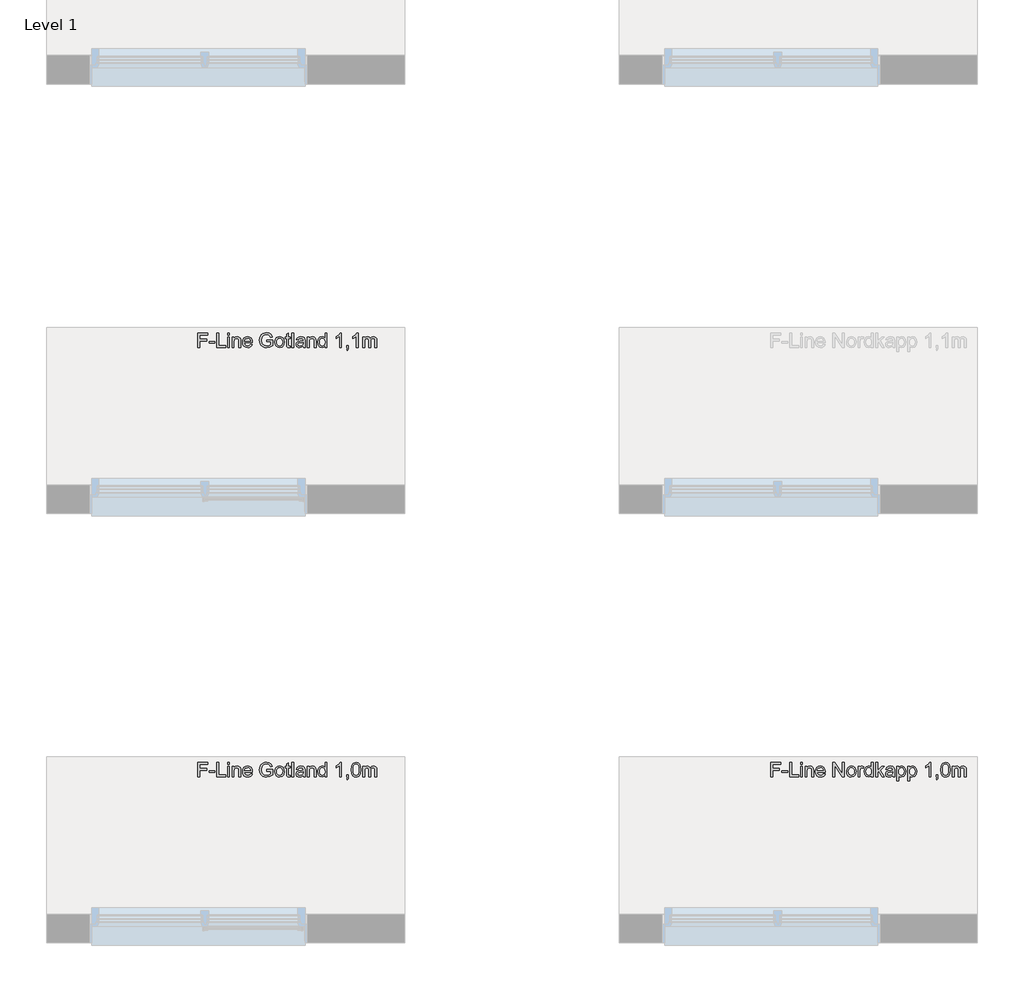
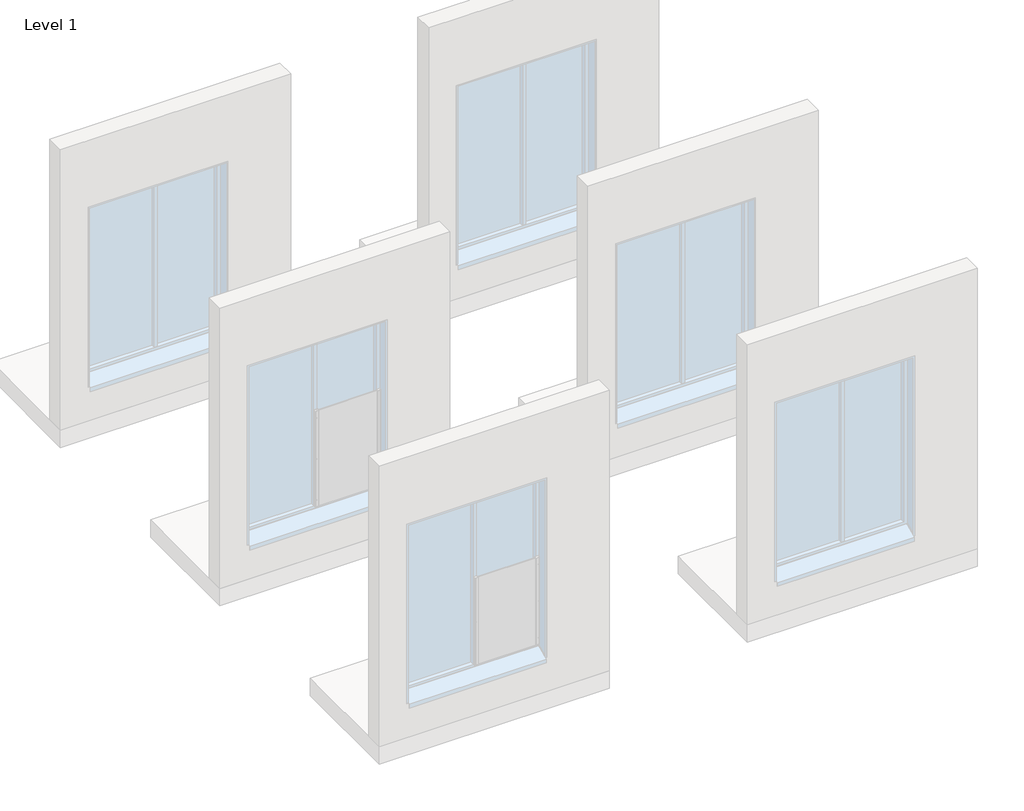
# One storey, part 47 of 66: 3 proxies.
"""IFC4 building model written with IfcOpenShell, lengths in millimetres."""

from ifc_helpers import new_model, si_unit, origin, origin_with_axes, place, context, project, spatial, polyline, outline, extrude, element, save

model = new_model("IFC4")

# Units and contexts
model_context = context("Model", 3, world=origin())
ifc_project = project(units=[si_unit("LENGTHUNIT", "METRE", prefix="MILLI")], contexts=[model_context])

# Site, building, storey
site = spatial("IfcSite", under=ifc_project)
building = spatial("IfcBuilding", under=site)
storey = spatial("IfcBuildingStorey", under=building, Name="Level 1", Elevation=0.0)

# Proxies
placement = place(None, origin())
element("IfcBuildingElementProxy", 1, Name="100mm Arial", ObjectType="100mm Arial", at=placement, inside=storey, context=model_context, shape_type="SweptSolid", body=[
    extrude(outline(polyline([(-8437.4350963, -3809.7113559), (-8437.4350963, -3709.2550458), (-8369.9410129, -3709.2550458), (-8369.9410129, -3721.8120845), (-8424.8780575, -3721.8120845), (-8424.8780575, -3751.6350516), (-8377.7891622, -3751.6350516), (-8377.7891622, -3764.1920904), (-8424.8780575, -3764.1920904), (-8424.8780575, -3809.7113559), (-8437.4350963, -3809.7113559)])), origin_with_axes(), (0.0, 0.0, 1.0), 10.0),
    extrude(outline(polyline([(-8360.5232339, -3779.8883888), (-8360.5232339, -3767.3313501), (-8321.2824877, -3767.3313501), (-8321.2824877, -3779.8883888), (-8360.5232339, -3779.8883888)])), origin_with_axes(), (0.0, 0.0, 1.0), 10.0),
    extrude(outline(polyline([(-8305.5861892, -3809.7113559), (-8305.5861892, -3709.2550458), (-8293.0291505, -3709.2550458), (-8293.0291505, -3797.1543171), (-8242.8009954, -3797.1543171), (-8242.8009954, -3809.7113559), (-8305.5861892, -3809.7113559)])), origin_with_axes(), (0.0, 0.0, 1.0), 10.0),
    extrude(outline(polyline([(-8230.2439566, -3721.8120845), (-8230.2439566, -3709.2550458), (-8217.6869179, -3709.2550458), (-8217.6869179, -3721.8120845), (-8230.2439566, -3721.8120845)])), origin_with_axes(), (0.0, 0.0, 1.0), 10.0),
    extrude(outline(polyline([(-8230.2439566, -3809.7113559), (-8230.2439566, -3735.9387531), (-8217.6869179, -3735.9387531), (-8217.6869179, -3809.7113559), (-8230.2439566, -3809.7113559)])), origin_with_axes(), (0.0, 0.0, 1.0), 10.0),
    extrude(outline(polyline([(-8198.8513597, -3809.7113559), (-8198.8513597, -3735.9387531), (-8186.2943209, -3735.9387531), (-8186.2943209, -3746.239449), (-8176.6926009, -3737.3367047), (-8163.5837391, -3734.3691233), (-8151.7256761, -3736.7603563), (-8143.6322722, -3743.0388757), (-8139.8676131, -3752.2727137), (-8139.2054256, -3764.4128196), (-8139.2054256, -3809.7113559), (-8151.7624643, -3809.7113559), (-8151.7624643, -3766.1050768), (-8153.2094668, -3754.9950405), (-8158.3230266, -3749.1211913), (-8166.943728, -3746.9261621), (-8180.5676245, -3751.8557808), (-8184.8626468, -3758.9988229), (-8186.2943209, -3770.5687116), (-8186.2943209, -3809.7113559), (-8198.8513597, -3809.7113559)])), origin_with_axes(), (0.0, 0.0, 1.0), 10.0),
    extrude(outline(polyline([(-8070.2888651, -3787.7365381), (-8057.977081, -3789.3061679), (-8062.4131247, -3798.5829256), (-8069.4917875, -3805.5175012), (-8079.0536537, -3809.8401146), (-8090.9393078, -3811.2809858), (-8105.6729817, -3808.7947166), (-8117.0098785, -3801.3359092), (-8124.2387597, -3789.3889414), (-8126.6483868, -3773.4381912), (-8124.2142343, -3756.9509464), (-8116.9117766, -3744.6207682), (-8105.728164, -3736.9320345), (-8091.6505463, -3734.3691233), (-8078.0113213, -3736.9259032), (-8067.1128172, -3744.5962428), (-8059.9667095, -3756.9018955), (-8057.5846736, -3773.3646148), (-8057.65825, -3776.7491291), (-8114.091348, -3776.7491291), (-8111.9177786, -3786.1485141), (-8106.8685982, -3793.0585643), (-8099.581469, -3797.3076013), (-8090.6940531, -3798.723947), (-8078.382269, -3796.0997221), (-8070.2888651, -3787.7365381)]), holes=[polyline([(-8114.091348, -3764.1920904), (-8070.1417123, -3764.1920904), (-8075.1694329, -3752.812274), (-8082.4902846, -3748.3976901), (-8091.6995972, -3746.9261621), (-8107.1629038, -3751.6227889), (-8112.0281432, -3757.1134277), (-8114.091348, -3764.1920904)])]), origin_with_axes(), (0.0, 0.0, 1.0), 10.0),
    extrude(outline(polyline([(-7957.1283634, -3770.4706098), (-7957.1283634, -3757.913571), (-7916.3179874, -3757.913571), (-7916.3179874, -3795.46206), (-7936.465658, -3807.3078602), (-7957.7660255, -3811.2809858), (-7971.8528403, -3809.7021589), (-7984.584623, -3804.9656782), (-7995.1612303, -3797.2370906), (-8002.782519, -3786.681943), (-8007.390241, -3774.020671), (-8008.9261483, -3759.9737102), (-8007.3963724, -3745.8255818), (-8002.8070445, -3732.6646034), (-7995.348237, -3721.6250779), (-7985.2100224, -3713.841308), (-7972.8614501, -3709.2243889), (-7958.7715697, -3707.6854159), (-7939.1266711, -3711.2538713), (-7925.3556218, -3721.1866851), (-7917.7649899, -3737.8026886), (-7929.34101, -3741.0645756), (-7935.0677064, -3729.4517673), (-7944.8533675, -3722.756315), (-7958.9677734, -3720.2424547), (-7975.0442166, -3722.9525187), (-7985.9825746, -3730.064904), (-7992.4450349, -3739.7402004), (-7996.3691096, -3759.4586754), (-7991.6479573, -3781.3476541), (-7977.9136961, -3794.4442531), (-7958.7715697, -3798.723947), (-7941.5914805, -3795.4988482), (-7928.8750262, -3788.6194549), (-7928.8750262, -3770.4706098), (-7957.1283634, -3770.4706098)])), origin_with_axes(), (0.0, 0.0, 1.0), 10.0),
    extrude(outline(polyline([(-7900.621689, -3772.8250545), (-7897.9054936, -3755.0379601), (-7889.7569074, -3742.5361036), (-7879.6892034, -3736.4108684), (-7867.6349367, -3734.3691233), (-7854.4433015, -3736.8553925), (-7843.906548, -3744.3141999), (-7836.9995636, -3756.1569345), (-7834.6972354, -3771.7949849), (-7838.7684628, -3794.1376848), (-7850.6265258, -3806.7805627), (-7867.6349367, -3811.2809858), (-7880.9859875, -3808.8039137), (-7891.5104782, -3801.3726974), (-7898.3438863, -3789.2816425), (-7900.621689, -3772.8250545)]), holes=[polyline([(-7888.0646502, -3772.8005291), (-7886.6115163, -3784.165017), (-7882.2521147, -3792.2614866), (-7875.6915524, -3797.1083319), (-7867.6349367, -3798.723947), (-7859.6151092, -3797.0991348), (-7853.0668097, -3792.2246984), (-7848.7074081, -3784.0209299), (-7847.2542742, -3772.4081216), (-7848.7166051, -3761.3747274), (-7853.1035979, -3753.3886225), (-7859.6610945, -3748.5417772), (-7867.6349367, -3746.9261621), (-7875.6915524, -3748.5356458), (-7882.2521147, -3753.364097), (-7886.6115163, -3761.4421725), (-7888.0646502, -3772.8005291)])]), origin_with_axes(), (0.0, 0.0, 1.0), 10.0),
    extrude(outline(polyline([(-7793.8868594, -3799.2389818), (-7792.3172296, -3810.0792379), (-7801.7104832, -3811.2809858), (-7812.2319082, -3809.1963211), (-7817.480358, -3803.7271421), (-7819.000937, -3789.4778462), (-7819.000937, -3748.4957919), (-7828.418716, -3748.4957919), (-7828.418716, -3735.9387531), (-7819.000937, -3735.9387531), (-7819.000937, -3718.0106373), (-7806.4438982, -3710.6284719), (-7806.4438982, -3735.9387531), (-7793.8868594, -3735.9387531), (-7793.8868594, -3748.4957919), (-7806.4438982, -3748.4957919), (-7806.4438982, -3789.1099642), (-7805.7817106, -3795.5846873), (-7803.6357323, -3797.8778184), (-7799.3560384, -3798.723947), (-7793.8868594, -3799.2389818)])), origin_with_axes(), (0.0, 0.0, 1.0), 10.0),
    extrude(outline(polyline([(-7781.3298206, -3809.7113559), (-7781.3298206, -3709.2550458), (-7768.7727819, -3709.2550458), (-7768.7727819, -3809.7113559), (-7781.3298206, -3809.7113559)])), origin_with_axes(), (0.0, 0.0, 1.0), 10.0),
    extrude(outline(polyline([(-7702.8483283, -3800.2935768), (-7715.0252224, -3808.8039137), (-7728.4774407, -3811.2809858), (-7738.9712746, -3809.7910637), (-7746.7121249, -3805.3212974), (-7751.4853938, -3798.5338746), (-7753.0764834, -3790.0909828), (-7750.6729877, -3780.158169), (-7744.3576801, -3772.9476819), (-7735.5653004, -3768.8274035), (-7724.7005189, -3766.9389426), (-7702.9219047, -3762.6224605), (-7702.8483283, -3759.8265574), (-7706.3064191, -3750.5559311), (-7720.187833, -3746.9261621), (-7732.8920246, -3749.3419205), (-7738.9498148, -3757.913571), (-7751.5068536, -3756.3439411), (-7746.0744628, -3744.081208), (-7735.1361048, -3736.8952463), (-7718.5691523, -3734.3691233), (-7703.3511004, -3736.6009407), (-7694.7549245, -3742.2050098), (-7690.9044262, -3750.7276094), (-7690.2912896, -3761.7150183), (-7690.2912896, -3777.3377403), (-7689.6536275, -3799.1531427), (-7687.1520299, -3809.7113559), (-7699.7090687, -3809.7113559), (-7702.8483283, -3800.2935768)]), holes=[polyline([(-7702.8483283, -3775.1794993), (-7723.1063635, -3779.0299975), (-7733.9098315, -3781.0656112), (-7738.802662, -3784.3765492), (-7740.5194447, -3789.2080661), (-7736.779311, -3796.0016202), (-7725.8041648, -3798.723947), (-7713.0999733, -3795.7195774), (-7704.9084675, -3788.4477766), (-7702.9219047, -3778.7356919), (-7702.8483283, -3775.1794993)])]), origin_with_axes(), (0.0, 0.0, 1.0), 10.0),
    extrude(outline(polyline([(-7673.0253613, -3809.7113559), (-7673.0253613, -3735.9387531), (-7660.4683225, -3735.9387531), (-7660.4683225, -3746.239449), (-7650.8666024, -3737.3367047), (-7637.7577407, -3734.3691233), (-7625.8996777, -3736.7603563), (-7617.8062738, -3743.0388757), (-7614.0416147, -3752.2727137), (-7613.3794271, -3764.4128196), (-7613.3794271, -3809.7113559), (-7625.9364659, -3809.7113559), (-7625.9364659, -3766.1050768), (-7627.3834684, -3754.9950405), (-7632.4970281, -3749.1211913), (-7641.1177296, -3746.9261621), (-7654.7416261, -3751.8557808), (-7659.0366484, -3758.9988229), (-7660.4683225, -3770.5687116), (-7660.4683225, -3809.7113559), (-7673.0253613, -3809.7113559)])), origin_with_axes(), (0.0, 0.0, 1.0), 10.0),
    extrude(outline(polyline([(-7550.5942333, -3809.7113559), (-7550.5942333, -3797.8655557), (-7558.902235, -3807.9271282), (-7570.3862846, -3811.2809858), (-7585.9354303, -3806.4249434), (-7596.9228392, -3792.8746233), (-7600.8223883, -3772.8986309), (-7597.2294075, -3752.9103759), (-7586.4627278, -3739.1515892), (-7570.4353355, -3734.3691233), (-7558.8593154, -3737.7904259), (-7550.5942333, -3746.6809074), (-7550.5942333, -3709.2550458), (-7538.0371945, -3709.2550458), (-7538.0371945, -3809.7113559), (-7550.5942333, -3809.7113559)]), holes=[polyline([(-7588.2653496, -3772.84958), (-7586.8490039, -3784.2079366), (-7582.5999669, -3792.2860121), (-7576.4256807, -3797.1144633), (-7569.2335877, -3798.723947), (-7562.0445604, -3797.1880397), (-7556.0266241, -3792.5803177), (-7551.952331, -3784.8149419), (-7550.5942333, -3773.8060732), (-7551.9768564, -3761.7702006), (-7556.1247259, -3753.4254107), (-7562.2959464, -3748.5509742), (-7569.7486225, -3746.9261621), (-7577.0142919, -3748.4865949), (-7582.9678488, -3753.1678933), (-7586.9409744, -3761.2091805), (-7588.2653496, -3772.84958)])]), origin_with_axes(), (0.0, 0.0, 1.0), 10.0),
    extrude(outline(polyline([(-7436.0112545, -3809.7113559), (-7448.5682933, -3809.7113559), (-7448.5682933, -3731.4260673), (-7460.4631445, -3739.899616), (-7473.6823708, -3746.239449), (-7473.6823708, -3734.3691233), (-7455.2760083, -3722.6214249), (-7444.1046584, -3709.2550458), (-7436.0112545, -3709.2550458), (-7436.0112545, -3809.7113559)])), origin_with_axes(), (0.0, 0.0, 1.0), 10.0),
    extrude(outline(polyline([(-7399.909768, -3809.7113559), (-7399.909768, -3797.1543171), (-7387.3527293, -3797.1543171), (-7387.3527293, -3809.7113559), (-7389.6090722, -3822.5504375), (-7396.7705084, -3830.1165439), (-7399.909768, -3825.4076544), (-7395.2989804, -3819.9875263), (-7393.6557741, -3809.7113559), (-7399.909768, -3809.7113559)])), origin_with_axes(), (0.0, 0.0, 1.0), 10.0),
    extrude(outline(polyline([(-7366.9475413, -3760.2925412), (-7363.2564586, -3731.3892791), (-7352.2935751, -3714.7242248), (-7333.9853145, -3709.2550458), (-7319.3190856, -3712.4924073), (-7309.190068, -3721.8243473), (-7303.3039561, -3736.6867799), (-7301.0230877, -3760.2925412), (-7304.6773822, -3789.073176), (-7315.6034775, -3805.7750186), (-7323.8348371, -3809.904494), (-7333.9853145, -3811.2809858), (-7347.0328626, -3808.8897528), (-7356.941151, -3801.7160539), (-7364.4459437, -3784.7260371), (-7366.9475413, -3760.2925412)]), holes=[polyline([(-7354.3905025, -3760.2680158), (-7352.9189745, -3780.0202132), (-7348.5043906, -3791.4521462), (-7341.9315656, -3796.9059968), (-7333.9853145, -3798.723947), (-7326.0390634, -3796.8998654), (-7319.4662384, -3791.4276208), (-7315.0516545, -3779.9895564), (-7313.5801265, -3760.2680158), (-7315.0026036, -3740.9603424), (-7319.2700347, -3729.4395046), (-7325.830597, -3723.7189395), (-7334.1324673, -3721.8120845), (-7341.9928793, -3723.492079), (-7348.3081869, -3728.5320623), (-7352.8699236, -3740.77027), (-7354.3905025, -3760.2680158)])]), origin_with_axes(), (0.0, 0.0, 1.0), 10.0),
    extrude(outline(polyline([(-7286.8964191, -3809.7113559), (-7286.8964191, -3735.9387531), (-7274.3393804, -3735.9387531), (-7274.3393804, -3748.078859), (-7265.7064162, -3738.1337824), (-7253.4191576, -3734.3691233), (-7240.8375933, -3738.2073588), (-7233.9214118, -3748.9617758), (-7224.123488, -3738.0172864), (-7211.7503902, -3734.3691233), (-7202.3111514, -3735.8866365), (-7195.3305905, -3740.4391762), (-7191.0171741, -3748.1493697), (-7189.5793687, -3759.1398443), (-7189.5793687, -3809.7113559), (-7202.1364074, -3809.7113559), (-7202.1364074, -3764.5354469), (-7203.3013671, -3754.05081), (-7207.5197473, -3748.8881994), (-7214.6934462, -3746.9261621), (-7227.0420185, -3751.9538827), (-7230.7300355, -3758.4960508), (-7231.9593745, -3768.0671141), (-7231.9593745, -3809.7113559), (-7244.5164133, -3809.7113559), (-7244.5164133, -3763.1374953), (-7247.422681, -3750.972864), (-7256.9508247, -3746.9261621), (-7266.2459765, -3749.6239634), (-7272.426394, -3757.5211635), (-7274.3393804, -3772.5062235), (-7274.3393804, -3809.7113559), (-7286.8964191, -3809.7113559)])), origin_with_axes(), (0.0, 0.0, 1.0), 10.0),
])
element("IfcBuildingElementProxy", 2, Name="100mm Arial", ObjectType="100mm Arial", at=placement, inside=storey, context=model_context, shape_type="SweptSolid", body=[
    extrude(outline(polyline([(-4437.4350963, -3809.7113559), (-4437.4350963, -3709.2550458), (-4369.9410129, -3709.2550458), (-4369.9410129, -3721.8120845), (-4424.8780575, -3721.8120845), (-4424.8780575, -3751.6350516), (-4377.7891622, -3751.6350516), (-4377.7891622, -3764.1920904), (-4424.8780575, -3764.1920904), (-4424.8780575, -3809.7113559), (-4437.4350963, -3809.7113559)])), origin_with_axes(), (0.0, 0.0, 1.0), 10.0),
    extrude(outline(polyline([(-4360.5232339, -3779.8883888), (-4360.5232339, -3767.3313501), (-4321.2824877, -3767.3313501), (-4321.2824877, -3779.8883888), (-4360.5232339, -3779.8883888)])), origin_with_axes(), (0.0, 0.0, 1.0), 10.0),
    extrude(outline(polyline([(-4305.5861892, -3809.7113559), (-4305.5861892, -3709.2550458), (-4293.0291505, -3709.2550458), (-4293.0291505, -3797.1543171), (-4242.8009954, -3797.1543171), (-4242.8009954, -3809.7113559), (-4305.5861892, -3809.7113559)])), origin_with_axes(), (0.0, 0.0, 1.0), 10.0),
    extrude(outline(polyline([(-4230.2439566, -3721.8120845), (-4230.2439566, -3709.2550458), (-4217.6869179, -3709.2550458), (-4217.6869179, -3721.8120845), (-4230.2439566, -3721.8120845)])), origin_with_axes(), (0.0, 0.0, 1.0), 10.0),
    extrude(outline(polyline([(-4230.2439566, -3809.7113559), (-4230.2439566, -3735.9387531), (-4217.6869179, -3735.9387531), (-4217.6869179, -3809.7113559), (-4230.2439566, -3809.7113559)])), origin_with_axes(), (0.0, 0.0, 1.0), 10.0),
    extrude(outline(polyline([(-4198.8513597, -3809.7113559), (-4198.8513597, -3735.9387531), (-4186.2943209, -3735.9387531), (-4186.2943209, -3746.239449), (-4176.6926009, -3737.3367047), (-4163.5837391, -3734.3691233), (-4151.7256761, -3736.7603563), (-4143.6322722, -3743.0388757), (-4139.8676131, -3752.2727137), (-4139.2054256, -3764.4128196), (-4139.2054256, -3809.7113559), (-4151.7624643, -3809.7113559), (-4151.7624643, -3766.1050768), (-4153.2094668, -3754.9950405), (-4158.3230266, -3749.1211913), (-4166.943728, -3746.9261621), (-4180.5676245, -3751.8557808), (-4184.8626468, -3758.9988229), (-4186.2943209, -3770.5687116), (-4186.2943209, -3809.7113559), (-4198.8513597, -3809.7113559)])), origin_with_axes(), (0.0, 0.0, 1.0), 10.0),
    extrude(outline(polyline([(-4070.2888651, -3787.7365381), (-4057.977081, -3789.3061679), (-4062.4131247, -3798.5829256), (-4069.4917875, -3805.5175012), (-4079.0536537, -3809.8401146), (-4090.9393078, -3811.2809858), (-4105.6729817, -3808.7947166), (-4117.0098785, -3801.3359092), (-4124.2387597, -3789.3889414), (-4126.6483868, -3773.4381912), (-4124.2142343, -3756.9509464), (-4116.9117766, -3744.6207682), (-4105.728164, -3736.9320345), (-4091.6505463, -3734.3691233), (-4078.0113213, -3736.9259032), (-4067.1128172, -3744.5962428), (-4059.9667095, -3756.9018955), (-4057.5846736, -3773.3646148), (-4057.65825, -3776.7491291), (-4114.091348, -3776.7491291), (-4111.9177786, -3786.1485141), (-4106.8685982, -3793.0585643), (-4099.581469, -3797.3076013), (-4090.6940531, -3798.723947), (-4078.382269, -3796.0997221), (-4070.2888651, -3787.7365381)]), holes=[polyline([(-4114.091348, -3764.1920904), (-4070.1417123, -3764.1920904), (-4075.1694329, -3752.812274), (-4082.4902846, -3748.3976901), (-4091.6995972, -3746.9261621), (-4107.1629038, -3751.6227889), (-4112.0281432, -3757.1134277), (-4114.091348, -3764.1920904)])]), origin_with_axes(), (0.0, 0.0, 1.0), 10.0),
    extrude(outline(polyline([(-4004.2172588, -3809.7113559), (-4004.2172588, -3709.2550458), (-3990.7773032, -3709.2550458), (-3938.2928053, -3788.8401841), (-3938.2928053, -3709.2550458), (-3925.7357665, -3709.2550458), (-3925.7357665, -3809.7113559), (-3939.175722, -3809.7113559), (-3991.66022, -3730.1016922), (-3991.66022, -3809.7113559), (-4004.2172588, -3809.7113559)])), origin_with_axes(), (0.0, 0.0, 1.0), 10.0),
    extrude(outline(polyline([(-3908.4698382, -3772.8250545), (-3905.7536428, -3755.0379601), (-3897.6050566, -3742.5361036), (-3887.5373527, -3736.4108684), (-3875.4830859, -3734.3691233), (-3862.2914507, -3736.8553925), (-3851.7546973, -3744.3141999), (-3844.8477128, -3756.1569345), (-3842.5453846, -3771.7949849), (-3846.6166121, -3794.1376848), (-3858.474675, -3806.7805627), (-3875.4830859, -3811.2809858), (-3888.8341367, -3808.8039137), (-3899.3586274, -3801.3726974), (-3906.1920355, -3789.2816425), (-3908.4698382, -3772.8250545)]), holes=[polyline([(-3895.9127994, -3772.8005291), (-3894.4596655, -3784.165017), (-3890.1002639, -3792.2614866), (-3883.5397016, -3797.1083319), (-3875.4830859, -3798.723947), (-3867.4632585, -3797.0991348), (-3860.9149589, -3792.2246984), (-3856.5555573, -3784.0209299), (-3855.1024234, -3772.4081216), (-3856.5647543, -3761.3747274), (-3860.9517471, -3753.3886225), (-3867.5092437, -3748.5417772), (-3875.4830859, -3746.9261621), (-3883.5397016, -3748.5356458), (-3890.1002639, -3753.364097), (-3894.4596655, -3761.4421725), (-3895.9127994, -3772.8005291)])]), origin_with_axes(), (0.0, 0.0, 1.0), 10.0),
    extrude(outline(polyline([(-3828.418716, -3809.7113559), (-3828.418716, -3735.9387531), (-3817.4313071, -3735.9387531), (-3817.4313071, -3746.8525857), (-3809.6322088, -3736.7971445), (-3801.7840596, -3734.3691233), (-3789.1779699, -3738.244147), (-3793.3718246, -3749.501336), (-3802.2009925, -3746.9261621), (-3809.301115, -3749.4032342), (-3813.8260636, -3756.2703648), (-3815.8616773, -3770.9365936), (-3815.8616773, -3809.7113559), (-3828.418716, -3809.7113559)])), origin_with_axes(), (0.0, 0.0, 1.0), 10.0),
    extrude(outline(polyline([(-3735.8105551, -3809.7113559), (-3735.8105551, -3797.8655557), (-3744.1185568, -3807.9271282), (-3755.6026065, -3811.2809858), (-3771.1517521, -3806.4249434), (-3782.139161, -3792.8746233), (-3786.0387102, -3772.8986309), (-3782.4457294, -3752.9103759), (-3771.6790496, -3739.1515892), (-3755.6516574, -3734.3691233), (-3744.0756373, -3737.7904259), (-3735.8105551, -3746.6809074), (-3735.8105551, -3709.2550458), (-3723.2535163, -3709.2550458), (-3723.2535163, -3809.7113559), (-3735.8105551, -3809.7113559)]), holes=[polyline([(-3773.4816714, -3772.84958), (-3772.0653257, -3784.2079366), (-3767.8162887, -3792.2860121), (-3761.6420025, -3797.1144633), (-3754.4499095, -3798.723947), (-3747.2608822, -3797.1880397), (-3741.2429459, -3792.5803177), (-3737.1686528, -3784.8149419), (-3735.8105551, -3773.8060732), (-3737.1931783, -3761.7702006), (-3741.3410478, -3753.4254107), (-3747.5122682, -3748.5509742), (-3754.9649443, -3746.9261621), (-3762.2306137, -3748.4865949), (-3768.1841707, -3753.1678933), (-3772.1572962, -3761.2091805), (-3773.4816714, -3772.84958)])]), origin_with_axes(), (0.0, 0.0, 1.0), 10.0),
    extrude(outline(polyline([(-3704.4179582, -3809.7113559), (-3704.4179582, -3709.2550458), (-3691.8609194, -3709.2550458), (-3691.8609194, -3763.2355972), (-3663.7056841, -3735.9387532), (-3646.3416539, -3735.9387532), (-3674.8402458, -3763.5789537), (-3644.772024, -3809.7113559), (-3659.4382529, -3809.7113559), (-3683.8410919, -3772.3100197), (-3691.8609194, -3780.0845926), (-3691.8609194, -3809.7113559), (-3704.4179582, -3809.7113559)])), origin_with_axes(), (0.0, 0.0, 1.0), 10.0),
    extrude(outline(polyline([(-3586.6957197, -3800.2935768), (-3598.8726138, -3808.8039137), (-3612.3248321, -3811.2809858), (-3622.818666, -3809.7910637), (-3630.5595163, -3805.3212974), (-3635.3327852, -3798.5338746), (-3636.9238748, -3790.0909828), (-3634.5203791, -3780.158169), (-3628.2050715, -3772.9476819), (-3619.4126918, -3768.8274035), (-3608.5479102, -3766.9389426), (-3586.7692961, -3762.6224605), (-3586.6957197, -3759.8265574), (-3590.1538105, -3750.5559311), (-3604.0352244, -3746.9261621), (-3616.739416, -3749.3419205), (-3622.7972062, -3757.913571), (-3635.354245, -3756.3439411), (-3629.9218542, -3744.081208), (-3618.9834962, -3736.8952463), (-3602.4165437, -3734.3691233), (-3587.1984918, -3736.6009407), (-3578.6023158, -3742.2050098), (-3574.7518176, -3750.7276094), (-3574.138681, -3761.7150183), (-3574.138681, -3777.3377403), (-3573.5010188, -3799.1531427), (-3570.9994213, -3809.7113559), (-3583.55646, -3809.7113559), (-3586.6957197, -3800.2935768)]), holes=[polyline([(-3586.6957197, -3775.1794993), (-3606.9537549, -3779.0299975), (-3617.7572229, -3781.0656112), (-3622.6500534, -3784.3765492), (-3624.366836, -3789.2080661), (-3620.6267024, -3796.0016202), (-3609.6515562, -3798.723947), (-3596.9473647, -3795.7195774), (-3588.7558589, -3788.4477766), (-3586.7692961, -3778.7356919), (-3586.6957197, -3775.1794993)])]), origin_with_axes(), (0.0, 0.0, 1.0), 10.0),
    extrude(outline(polyline([(-3556.8727527, -3837.9646931), (-3556.8727527, -3735.9387532), (-3544.3157139, -3735.9387532), (-3544.3157139, -3748.2505373), (-3535.6336988, -3737.8394768), (-3523.9105259, -3734.3691233), (-3507.9934982, -3739.2251656), (-3497.5947005, -3752.9103759), (-3494.0875588, -3772.2609688), (-3498.0484216, -3792.6048431), (-3509.5508653, -3806.4617316), (-3525.4311048, -3811.2809858), (-3536.3572001, -3808.0558869), (-3544.3157139, -3799.9011694), (-3544.3157139, -3837.9646931), (-3556.8727527, -3837.9646931)]), holes=[polyline([(-3544.3157139, -3773.4136657), (-3542.9576162, -3784.6708548), (-3538.8833231, -3792.5435295), (-3532.8715182, -3797.1788426), (-3525.7008849, -3798.723947), (-3518.4137557, -3797.1236603), (-3512.2486666, -3792.3228003), (-3508.0456148, -3784.1619514), (-3506.6445976, -3772.481698), (-3508.0118923, -3761.2858226), (-3512.1137766, -3753.3027833), (-3518.1163845, -3748.5203174), (-3525.1858501, -3746.9261621), (-3532.282907, -3748.6214849), (-3538.5154411, -3753.7074535), (-3542.8656457, -3762.0246523), (-3544.3157139, -3773.4136657)])]), origin_with_axes(), (0.0, 0.0, 1.0), 10.0),
    extrude(outline(polyline([(-3479.9608902, -3837.9646931), (-3479.9608902, -3735.9387532), (-3467.4038514, -3735.9387532), (-3467.4038514, -3748.2505373), (-3458.7218363, -3737.8394768), (-3446.9986634, -3734.3691233), (-3431.0816358, -3739.2251656), (-3420.682838, -3752.9103759), (-3417.1756964, -3772.2609688), (-3421.1365592, -3792.6048431), (-3432.6390029, -3806.4617316), (-3448.5192423, -3811.2809858), (-3459.4453376, -3808.0558869), (-3467.4038514, -3799.9011694), (-3467.4038514, -3837.9646931), (-3479.9608902, -3837.9646931)]), holes=[polyline([(-3467.4038514, -3773.4136657), (-3466.0457537, -3784.6708548), (-3461.9714606, -3792.5435295), (-3455.9596557, -3797.1788426), (-3448.7890225, -3798.723947), (-3441.5018933, -3797.1236603), (-3435.3368042, -3792.3228003), (-3431.1337524, -3784.1619514), (-3429.7327351, -3772.481698), (-3431.1000299, -3761.2858226), (-3435.2019141, -3753.3027833), (-3441.204522, -3748.5203174), (-3448.2739877, -3746.9261621), (-3455.3710445, -3748.6214849), (-3461.6035786, -3753.7074535), (-3465.9537832, -3762.0246523), (-3467.4038514, -3773.4136657)])]), origin_with_axes(), (0.0, 0.0, 1.0), 10.0),
    extrude(outline(polyline([(-3319.8586459, -3809.7113559), (-3332.4156847, -3809.7113559), (-3332.4156847, -3731.4260673), (-3344.3105358, -3739.899616), (-3357.5297622, -3746.239449), (-3357.5297622, -3734.3691233), (-3339.1233997, -3722.6214249), (-3327.9520498, -3709.2550458), (-3319.8586459, -3709.2550458), (-3319.8586459, -3809.7113559)])), origin_with_axes(), (0.0, 0.0, 1.0), 10.0),
    extrude(outline(polyline([(-3283.7571594, -3809.7113559), (-3283.7571594, -3797.1543171), (-3271.2001207, -3797.1543171), (-3271.2001207, -3809.7113559), (-3273.4564636, -3822.5504375), (-3280.6178997, -3830.1165439), (-3283.7571594, -3825.4076544), (-3279.1463718, -3819.9875263), (-3277.5031655, -3809.7113559), (-3283.7571594, -3809.7113559)])), origin_with_axes(), (0.0, 0.0, 1.0), 10.0),
    extrude(outline(polyline([(-3250.7949327, -3760.2925412), (-3247.10385, -3731.3892791), (-3236.1409665, -3714.7242248), (-3217.8327059, -3709.2550458), (-3203.166477, -3712.4924073), (-3193.0374594, -3721.8243473), (-3187.1513475, -3736.6867799), (-3184.8704791, -3760.2925412), (-3188.5247736, -3789.073176), (-3199.4508689, -3805.7750186), (-3207.6822285, -3809.904494), (-3217.8327059, -3811.2809858), (-3230.880254, -3808.8897528), (-3240.7885424, -3801.7160539), (-3248.2933351, -3784.7260371), (-3250.7949327, -3760.2925412)]), holes=[polyline([(-3238.2378939, -3760.2680158), (-3236.7663659, -3780.0202132), (-3232.351782, -3791.4521462), (-3225.778957, -3796.9059968), (-3217.8327059, -3798.723947), (-3209.8864548, -3796.8998654), (-3203.3136298, -3791.4276208), (-3198.8990459, -3779.9895564), (-3197.4275179, -3760.2680158), (-3198.849995, -3740.9603424), (-3203.1174261, -3729.4395046), (-3209.6779883, -3723.7189395), (-3217.9798587, -3721.8120845), (-3225.8402707, -3723.492079), (-3232.1555782, -3728.5320623), (-3236.717315, -3740.77027), (-3238.2378939, -3760.2680158)])]), origin_with_axes(), (0.0, 0.0, 1.0), 10.0),
    extrude(outline(polyline([(-3170.7438105, -3809.7113559), (-3170.7438105, -3735.9387532), (-3158.1867718, -3735.9387532), (-3158.1867718, -3748.078859), (-3149.5538076, -3738.1337824), (-3137.266549, -3734.3691233), (-3124.6849847, -3738.2073588), (-3117.7688032, -3748.9617758), (-3107.9708794, -3738.0172864), (-3095.5977816, -3734.3691233), (-3086.1585428, -3735.8866365), (-3079.1779819, -3740.4391762), (-3074.8645655, -3748.1493697), (-3073.4267601, -3759.1398443), (-3073.4267601, -3809.7113559), (-3085.9837988, -3809.7113559), (-3085.9837988, -3764.5354469), (-3087.1487585, -3754.05081), (-3091.3671387, -3748.8881994), (-3098.5408376, -3746.9261621), (-3110.8894099, -3751.9538827), (-3114.5774269, -3758.4960508), (-3115.8067659, -3768.0671141), (-3115.8067659, -3809.7113559), (-3128.3638047, -3809.7113559), (-3128.3638047, -3763.1374953), (-3131.2700724, -3750.972864), (-3140.7982161, -3746.9261621), (-3150.0933679, -3749.6239634), (-3156.2737854, -3757.5211635), (-3158.1867718, -3772.5062235), (-3158.1867718, -3809.7113559), (-3170.7438105, -3809.7113559)])), origin_with_axes(), (0.0, 0.0, 1.0), 10.0),
])
element("IfcBuildingElementProxy", 3, Name="100mm Arial", ObjectType="100mm Arial", at=placement, inside=storey, context=model_context, shape_type="SweptSolid", body=[
    extrude(outline(polyline([(-8437.4350963, -809.7113559), (-8437.4350963, -709.2550458), (-8369.9410129, -709.2550458), (-8369.9410129, -721.8120845), (-8424.8780575, -721.8120845), (-8424.8780575, -751.6350516), (-8377.7891622, -751.6350516), (-8377.7891622, -764.1920904), (-8424.8780575, -764.1920904), (-8424.8780575, -809.7113559), (-8437.4350963, -809.7113559)])), origin_with_axes(), (0.0, 0.0, 1.0), 10.0),
    extrude(outline(polyline([(-8360.5232339, -779.8883888), (-8360.5232339, -767.3313501), (-8321.2824877, -767.3313501), (-8321.2824877, -779.8883888), (-8360.5232339, -779.8883888)])), origin_with_axes(), (0.0, 0.0, 1.0), 10.0),
    extrude(outline(polyline([(-8305.5861892, -809.7113559), (-8305.5861892, -709.2550458), (-8293.0291505, -709.2550458), (-8293.0291505, -797.1543171), (-8242.8009954, -797.1543171), (-8242.8009954, -809.7113559), (-8305.5861892, -809.7113559)])), origin_with_axes(), (0.0, 0.0, 1.0), 10.0),
    extrude(outline(polyline([(-8230.2439566, -721.8120845), (-8230.2439566, -709.2550458), (-8217.6869179, -709.2550458), (-8217.6869179, -721.8120845), (-8230.2439566, -721.8120845)])), origin_with_axes(), (0.0, 0.0, 1.0), 10.0),
    extrude(outline(polyline([(-8230.2439566, -809.7113559), (-8230.2439566, -735.9387531), (-8217.6869179, -735.9387531), (-8217.6869179, -809.7113559), (-8230.2439566, -809.7113559)])), origin_with_axes(), (0.0, 0.0, 1.0), 10.0),
    extrude(outline(polyline([(-8198.8513597, -809.7113559), (-8198.8513597, -735.9387531), (-8186.2943209, -735.9387531), (-8186.2943209, -746.239449), (-8176.6926009, -737.3367047), (-8163.5837391, -734.3691233), (-8151.7256761, -736.7603563), (-8143.6322722, -743.0388757), (-8139.8676131, -752.2727137), (-8139.2054256, -764.4128196), (-8139.2054256, -809.7113559), (-8151.7624643, -809.7113559), (-8151.7624643, -766.1050768), (-8153.2094668, -754.9950405), (-8158.3230266, -749.1211913), (-8166.943728, -746.9261621), (-8180.5676245, -751.8557808), (-8184.8626468, -758.9988229), (-8186.2943209, -770.5687116), (-8186.2943209, -809.7113559), (-8198.8513597, -809.7113559)])), origin_with_axes(), (0.0, 0.0, 1.0), 10.0),
    extrude(outline(polyline([(-8070.2888651, -787.7365381), (-8057.977081, -789.3061679), (-8062.4131247, -798.5829256), (-8069.4917875, -805.5175012), (-8079.0536537, -809.8401146), (-8090.9393078, -811.2809858), (-8105.6729817, -808.7947166), (-8117.0098785, -801.3359092), (-8124.2387597, -789.3889414), (-8126.6483868, -773.4381912), (-8124.2142343, -756.9509464), (-8116.9117766, -744.6207682), (-8105.728164, -736.9320345), (-8091.6505463, -734.3691233), (-8078.0113213, -736.9259032), (-8067.1128172, -744.5962428), (-8059.9667095, -756.9018955), (-8057.5846736, -773.3646148), (-8057.65825, -776.7491291), (-8114.091348, -776.7491291), (-8111.9177786, -786.1485141), (-8106.8685982, -793.0585643), (-8099.581469, -797.3076013), (-8090.6940531, -798.723947), (-8078.382269, -796.0997221), (-8070.2888651, -787.7365381)]), holes=[polyline([(-8114.091348, -764.1920904), (-8070.1417123, -764.1920904), (-8075.1694329, -752.812274), (-8082.4902846, -748.3976901), (-8091.6995972, -746.9261621), (-8107.1629038, -751.6227889), (-8112.0281432, -757.1134277), (-8114.091348, -764.1920904)])]), origin_with_axes(), (0.0, 0.0, 1.0), 10.0),
    extrude(outline(polyline([(-7957.1283634, -770.4706098), (-7957.1283634, -757.913571), (-7916.3179874, -757.913571), (-7916.3179874, -795.46206), (-7936.465658, -807.3078602), (-7957.7660255, -811.2809858), (-7971.8528403, -809.7021589), (-7984.584623, -804.9656782), (-7995.1612303, -797.2370906), (-8002.782519, -786.681943), (-8007.390241, -774.020671), (-8008.9261483, -759.9737102), (-8007.3963724, -745.8255818), (-8002.8070445, -732.6646034), (-7995.348237, -721.6250779), (-7985.2100224, -713.841308), (-7972.8614501, -709.2243889), (-7958.7715697, -707.6854159), (-7939.1266711, -711.2538713), (-7925.3556218, -721.1866851), (-7917.7649899, -737.8026886), (-7929.34101, -741.0645756), (-7935.0677064, -729.4517673), (-7944.8533675, -722.756315), (-7958.9677734, -720.2424547), (-7975.0442166, -722.9525187), (-7985.9825746, -730.064904), (-7992.4450349, -739.7402004), (-7996.3691096, -759.4586754), (-7991.6479573, -781.3476541), (-7977.9136961, -794.4442531), (-7958.7715697, -798.723947), (-7941.5914805, -795.4988482), (-7928.8750262, -788.6194549), (-7928.8750262, -770.4706098), (-7957.1283634, -770.4706098)])), origin_with_axes(), (0.0, 0.0, 1.0), 10.0),
    extrude(outline(polyline([(-7900.621689, -772.8250545), (-7897.9054936, -755.0379601), (-7889.7569074, -742.5361036), (-7879.6892034, -736.4108684), (-7867.6349367, -734.3691233), (-7854.4433015, -736.8553925), (-7843.906548, -744.3141999), (-7836.9995636, -756.1569345), (-7834.6972354, -771.7949849), (-7838.7684628, -794.1376848), (-7850.6265258, -806.7805627), (-7867.6349367, -811.2809858), (-7880.9859875, -808.8039137), (-7891.5104782, -801.3726974), (-7898.3438863, -789.2816425), (-7900.621689, -772.8250545)]), holes=[polyline([(-7888.0646502, -772.8005291), (-7886.6115163, -784.165017), (-7882.2521147, -792.2614866), (-7875.6915524, -797.1083319), (-7867.6349367, -798.723947), (-7859.6151092, -797.0991348), (-7853.0668097, -792.2246984), (-7848.7074081, -784.0209299), (-7847.2542742, -772.4081216), (-7848.7166051, -761.3747274), (-7853.1035979, -753.3886225), (-7859.6610945, -748.5417772), (-7867.6349367, -746.9261621), (-7875.6915524, -748.5356458), (-7882.2521147, -753.364097), (-7886.6115163, -761.4421725), (-7888.0646502, -772.8005291)])]), origin_with_axes(), (0.0, 0.0, 1.0), 10.0),
    extrude(outline(polyline([(-7793.8868594, -799.2389818), (-7792.3172296, -810.0792379), (-7801.7104832, -811.2809858), (-7812.2319082, -809.1963211), (-7817.480358, -803.7271421), (-7819.000937, -789.4778462), (-7819.000937, -748.4957919), (-7828.418716, -748.4957919), (-7828.418716, -735.9387531), (-7819.000937, -735.9387531), (-7819.000937, -718.0106373), (-7806.4438982, -710.6284719), (-7806.4438982, -735.9387531), (-7793.8868594, -735.9387531), (-7793.8868594, -748.4957919), (-7806.4438982, -748.4957919), (-7806.4438982, -789.1099642), (-7805.7817106, -795.5846873), (-7803.6357323, -797.8778184), (-7799.3560384, -798.723947), (-7793.8868594, -799.2389818)])), origin_with_axes(), (0.0, 0.0, 1.0), 10.0),
    extrude(outline(polyline([(-7781.3298206, -809.7113559), (-7781.3298206, -709.2550458), (-7768.7727819, -709.2550458), (-7768.7727819, -809.7113559), (-7781.3298206, -809.7113559)])), origin_with_axes(), (0.0, 0.0, 1.0), 10.0),
    extrude(outline(polyline([(-7702.8483283, -800.2935768), (-7715.0252224, -808.8039137), (-7728.4774407, -811.2809858), (-7738.9712746, -809.7910637), (-7746.7121249, -805.3212974), (-7751.4853938, -798.5338746), (-7753.0764834, -790.0909828), (-7750.6729877, -780.158169), (-7744.3576801, -772.9476819), (-7735.5653004, -768.8274035), (-7724.7005189, -766.9389426), (-7702.9219047, -762.6224605), (-7702.8483283, -759.8265574), (-7706.3064191, -750.5559311), (-7720.187833, -746.9261621), (-7732.8920246, -749.3419205), (-7738.9498148, -757.913571), (-7751.5068536, -756.3439411), (-7746.0744628, -744.081208), (-7735.1361048, -736.8952463), (-7718.5691523, -734.3691233), (-7703.3511004, -736.6009407), (-7694.7549244, -742.2050098), (-7690.9044262, -750.7276094), (-7690.2912896, -761.7150183), (-7690.2912896, -777.3377403), (-7689.6536275, -799.1531427), (-7687.1520299, -809.7113559), (-7699.7090687, -809.7113559), (-7702.8483283, -800.2935768)]), holes=[polyline([(-7702.8483283, -775.1794993), (-7723.1063635, -779.0299975), (-7733.9098315, -781.0656112), (-7738.802662, -784.3765492), (-7740.5194446, -789.2080661), (-7736.779311, -796.0016202), (-7725.8041648, -798.723947), (-7713.0999733, -795.7195774), (-7704.9084675, -788.4477766), (-7702.9219047, -778.7356919), (-7702.8483283, -775.1794993)])]), origin_with_axes(), (0.0, 0.0, 1.0), 10.0),
    extrude(outline(polyline([(-7673.0253613, -809.7113559), (-7673.0253613, -735.9387531), (-7660.4683225, -735.9387531), (-7660.4683225, -746.239449), (-7650.8666024, -737.3367047), (-7637.7577407, -734.3691233), (-7625.8996777, -736.7603563), (-7617.8062738, -743.0388757), (-7614.0416147, -752.2727137), (-7613.3794271, -764.4128196), (-7613.3794271, -809.7113559), (-7625.9364659, -809.7113559), (-7625.9364659, -766.1050768), (-7627.3834684, -754.9950405), (-7632.4970281, -749.1211913), (-7641.1177296, -746.9261621), (-7654.7416261, -751.8557808), (-7659.0366484, -758.9988229), (-7660.4683225, -770.5687116), (-7660.4683225, -809.7113559), (-7673.0253613, -809.7113559)])), origin_with_axes(), (0.0, 0.0, 1.0), 10.0),
    extrude(outline(polyline([(-7550.5942333, -809.7113559), (-7550.5942333, -797.8655557), (-7558.902235, -807.9271282), (-7570.3862846, -811.2809858), (-7585.9354303, -806.4249434), (-7596.9228392, -792.8746233), (-7600.8223883, -772.8986309), (-7597.2294075, -752.9103759), (-7586.4627278, -739.1515892), (-7570.4353355, -734.3691233), (-7558.8593154, -737.7904259), (-7550.5942333, -746.6809074), (-7550.5942333, -709.2550458), (-7538.0371945, -709.2550458), (-7538.0371945, -809.7113559), (-7550.5942333, -809.7113559)]), holes=[polyline([(-7588.2653496, -772.84958), (-7586.8490039, -784.2079366), (-7582.5999669, -792.2860121), (-7576.4256807, -797.1144633), (-7569.2335877, -798.723947), (-7562.0445604, -797.1880397), (-7556.0266241, -792.5803177), (-7551.952331, -784.8149419), (-7550.5942333, -773.8060732), (-7551.9768564, -761.7702006), (-7556.1247259, -753.4254107), (-7562.2959464, -748.5509742), (-7569.7486225, -746.9261621), (-7577.0142919, -748.4865949), (-7582.9678488, -753.1678933), (-7586.9409744, -761.2091805), (-7588.2653496, -772.84958)])]), origin_with_axes(), (0.0, 0.0, 1.0), 10.0),
    extrude(outline(polyline([(-7436.0112545, -809.7113559), (-7448.5682933, -809.7113559), (-7448.5682933, -731.4260673), (-7460.4631445, -739.899616), (-7473.6823708, -746.239449), (-7473.6823708, -734.3691233), (-7455.2760083, -722.6214249), (-7444.1046584, -709.2550458), (-7436.0112545, -709.2550458), (-7436.0112545, -809.7113559)])), origin_with_axes(), (0.0, 0.0, 1.0), 10.0),
    extrude(outline(polyline([(-7399.909768, -809.7113559), (-7399.909768, -797.1543171), (-7387.3527293, -797.1543171), (-7387.3527293, -809.7113559), (-7389.6090722, -822.5504375), (-7396.7705084, -830.1165439), (-7399.909768, -825.4076544), (-7395.2989804, -819.9875263), (-7393.6557741, -809.7113559), (-7399.909768, -809.7113559)])), origin_with_axes(), (0.0, 0.0, 1.0), 10.0),
    extrude(outline(polyline([(-7319.8586459, -809.7113559), (-7332.4156847, -809.7113559), (-7332.4156847, -731.4260673), (-7344.3105358, -739.899616), (-7357.5297622, -746.239449), (-7357.5297622, -734.3691233), (-7339.1233997, -722.6214249), (-7327.9520498, -709.2550458), (-7319.8586459, -709.2550458), (-7319.8586459, -809.7113559)])), origin_with_axes(), (0.0, 0.0, 1.0), 10.0),
    extrude(outline(polyline([(-7286.8964191, -809.7113559), (-7286.8964191, -735.9387531), (-7274.3393804, -735.9387531), (-7274.3393804, -748.078859), (-7265.7064162, -738.1337824), (-7253.4191576, -734.3691233), (-7240.8375933, -738.2073588), (-7233.9214118, -748.9617758), (-7224.123488, -738.0172864), (-7211.7503902, -734.3691233), (-7202.3111514, -735.8866365), (-7195.3305905, -740.4391762), (-7191.0171741, -748.1493697), (-7189.5793687, -759.1398443), (-7189.5793687, -809.7113559), (-7202.1364074, -809.7113559), (-7202.1364074, -764.5354469), (-7203.3013671, -754.05081), (-7207.5197473, -748.8881994), (-7214.6934462, -746.9261621), (-7227.0420185, -751.9538827), (-7230.7300355, -758.4960508), (-7231.9593745, -768.0671141), (-7231.9593745, -809.7113559), (-7244.5164133, -809.7113559), (-7244.5164133, -763.1374953), (-7247.422681, -750.972864), (-7256.9508247, -746.9261621), (-7266.2459765, -749.6239634), (-7272.426394, -757.5211635), (-7274.3393804, -772.5062235), (-7274.3393804, -809.7113559), (-7286.8964191, -809.7113559)])), origin_with_axes(), (0.0, 0.0, 1.0), 10.0),
])

save(model, "model.ifc")
